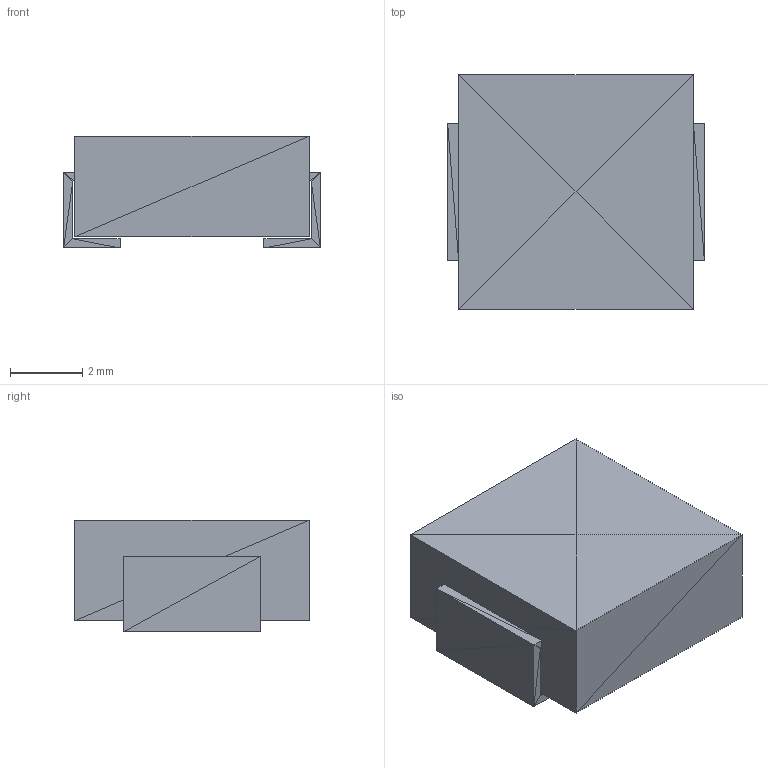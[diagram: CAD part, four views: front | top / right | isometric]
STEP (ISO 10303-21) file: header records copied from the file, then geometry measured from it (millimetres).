
FILE_DESCRIPTION(('STEP AP214'),'1');
FILE_NAME('ELL6RH','2020-08-19T04:47:52',(''),(''),'','','');
FILE_SCHEMA(('AUTOMOTIVE_DESIGN'));
Length unit declared in the file: millimetre
Products named in the file (1): product
Bounding box: 7.11 x 6.5 x 3.1 mm (x, y, z)
Surface area: 217.3 mm2 (no closed solid volume)
Topology: 0 solids, 72 shells, 72 faces, 216 edges, 216 vertices
Faces by surface type: plane 72
Entity records: 2435 total; most frequent: CARTESIAN_POINT 505, DIRECTION 362, ORIENTED_EDGE 216, EDGE_CURVE 216, VERTEX_POINT 216, LINE 216, VECTOR 216, AXIS2_PLACEMENT_3D 73
